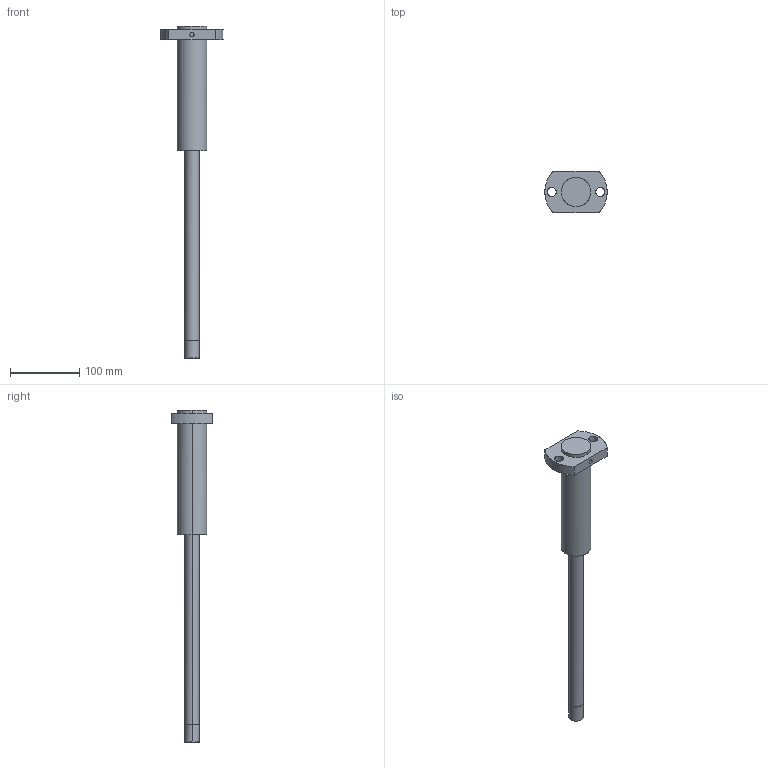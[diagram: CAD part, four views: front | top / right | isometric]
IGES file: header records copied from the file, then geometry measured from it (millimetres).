
Global section: file name: E:\UnigraphicsGraphicData\MISUMI_PRESS-PARTS\IGES\3d_papzu20-300-180-160-250_01717_r00.igs; native system: NX V5.0; preprocessor: UGS NX IGES V5.0; author: MISUMI; date: 20110105.162231; units: millimetre
Bounding box: 90 x 60 x 480 mm (x, y, z)
Surface area: 62466.4 mm2 (no closed solid volume)
Topology: 0 solids, 0 shells, 32 faces, 292 edges, 292 vertices
Faces by surface type: bspline 32
